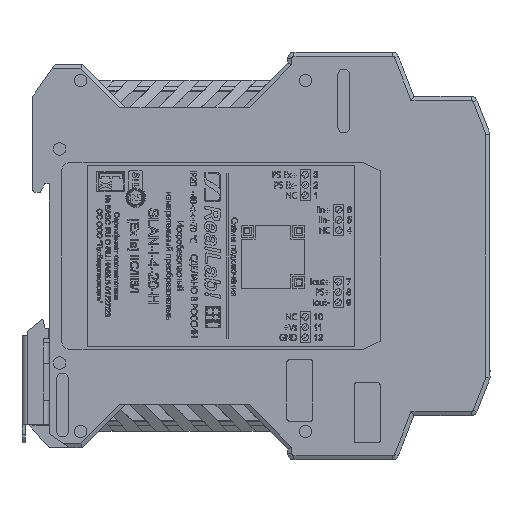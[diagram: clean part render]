
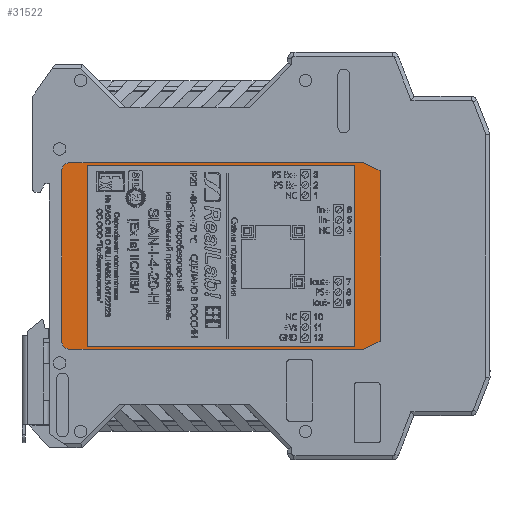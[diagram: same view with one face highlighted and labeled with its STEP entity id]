
A CAD part, front view. The second image highlights one B-rep face of the part: STEP entity #31522.
In plain terms, the highlighted planar face has unit normal (0, -1, 0).
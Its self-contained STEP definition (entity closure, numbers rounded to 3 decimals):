
#31522=ADVANCED_FACE('',(#106641,#106643),#106645,.T.);
#106641=FACE_BOUND('',#106642,.T.);
#106642=EDGE_LOOP('',(#173952,#173953,#173954,#173955,#173956,#173957,#173958,#173959));
#106643=FACE_BOUND('',#106644,.T.);
#106644=EDGE_LOOP('',(#173960,#173961,#173962,#173963));
#106645=PLANE('',#106646);
#106646=AXIS2_PLACEMENT_3D('',#106647,#106648,#106649);
#106647=CARTESIAN_POINT('',(105.362,0.2,-1.512));
#106648=DIRECTION('',(0.,-1.,0.));
#106649=DIRECTION('',(0.,0.,-1.));
#173952=ORIENTED_EDGE('',*,*,#227919,.T.);
#173953=ORIENTED_EDGE('',*,*,#227920,.T.);
#173954=ORIENTED_EDGE('',*,*,#227921,.T.);
#173955=ORIENTED_EDGE('',*,*,#227922,.T.);
#173956=ORIENTED_EDGE('',*,*,#227923,.T.);
#173957=ORIENTED_EDGE('',*,*,#227924,.F.);
#173958=ORIENTED_EDGE('',*,*,#227925,.T.);
#173959=ORIENTED_EDGE('',*,*,#227926,.F.);
#173960=ORIENTED_EDGE('',*,*,#221054,.T.);
#173961=ORIENTED_EDGE('',*,*,#221061,.T.);
#173962=ORIENTED_EDGE('',*,*,#221059,.T.);
#173963=ORIENTED_EDGE('',*,*,#221057,.T.);
#221054=EDGE_CURVE('',#251206,#251207,#251208,.T.);
#221057=EDGE_CURVE('',#251211,#251206,#251212,.T.);
#221059=EDGE_CURVE('',#251214,#251211,#251215,.T.);
#221061=EDGE_CURVE('',#251207,#251214,#251217,.T.);
#227919=EDGE_CURVE('',#261530,#261531,#261532,.T.);
#227920=EDGE_CURVE('',#261531,#261533,#261534,.T.);
#227921=EDGE_CURVE('',#261533,#261535,#261536,.T.);
#227922=EDGE_CURVE('',#261535,#261537,#261538,.T.);
#227923=EDGE_CURVE('',#261537,#261539,#261540,.T.);
#227924=EDGE_CURVE('',#261541,#261539,#261542,.T.);
#227925=EDGE_CURVE('',#261541,#261543,#261544,.T.);
#227926=EDGE_CURVE('',#261530,#261543,#261545,.T.);
#251206=VERTEX_POINT('',#304053);
#251207=VERTEX_POINT('',#304054);
#251208=LINE('',#304055,#304056);
#251211=VERTEX_POINT('',#304064);
#251212=LINE('',#304065,#304066);
#251214=VERTEX_POINT('',#304071);
#251215=LINE('',#304072,#304073);
#251217=LINE('',#304078,#304079);
#261530=VERTEX_POINT('',#330401);
#261531=VERTEX_POINT('',#330402);
#261532=LINE('',#330403,#330404);
#261533=VERTEX_POINT('',#330406);
#261534=LINE('',#330407,#330408);
#261535=VERTEX_POINT('',#330410);
#261536=LINE('',#330411,#330412);
#261537=VERTEX_POINT('',#330414);
#261538=LINE('',#330415,#330416);
#261539=VERTEX_POINT('',#330418);
#261540=LINE('',#330419,#330420);
#261541=VERTEX_POINT('',#330422);
#261542=CIRCLE('',#330423,2.);
#261543=VERTEX_POINT('',#330427);
#261544=LINE('',#330428,#330429);
#261545=CIRCLE('',#330431,2.);
#304053=CARTESIAN_POINT('',(75.662,0.2,20.488));
#304054=CARTESIAN_POINT('',(75.662,0.2,-23.512));
#304055=CARTESIAN_POINT('',(75.662,0.2,20.488));
#304056=VECTOR('',#304057,1.);
#304057=DIRECTION('',(0.,0.,-1.));
#304064=CARTESIAN_POINT('',(10.662,0.2,20.488));
#304065=CARTESIAN_POINT('',(10.662,0.2,20.488));
#304066=VECTOR('',#304067,1.);
#304067=DIRECTION('',(1.,0.,0.));
#304071=CARTESIAN_POINT('',(10.662,0.2,-23.512));
#304072=CARTESIAN_POINT('',(10.662,0.2,-23.512));
#304073=VECTOR('',#304074,1.);
#304074=DIRECTION('',(0.,0.,1.));
#304078=CARTESIAN_POINT('',(75.662,0.2,-23.512));
#304079=VECTOR('',#304080,1.);
#304080=DIRECTION('',(-1.,0.,0.));
#330401=CARTESIAN_POINT('',(6.512,0.2,-24.162));
#330402=CARTESIAN_POINT('',(77.812,0.2,-24.162));
#330403=CARTESIAN_POINT('',(6.512,0.2,-24.162));
#330404=VECTOR('',#330405,1.);
#330405=DIRECTION('',(1.,0.,0.));
#330406=CARTESIAN_POINT('',(81.812,0.2,-22.162));
#330407=CARTESIAN_POINT('',(77.812,0.2,-24.162));
#330408=VECTOR('',#330409,1.);
#330409=DIRECTION('',(0.894,0.,0.447));
#330410=CARTESIAN_POINT('',(81.812,0.2,19.138));
#330411=CARTESIAN_POINT('',(81.812,0.2,-22.162));
#330412=VECTOR('',#330413,1.);
#330413=DIRECTION('',(0.,0.,1.));
#330414=CARTESIAN_POINT('',(77.812,0.2,21.138));
#330415=CARTESIAN_POINT('',(81.812,0.2,19.138));
#330416=VECTOR('',#330417,1.);
#330417=DIRECTION('',(-0.894,0.,0.447));
#330418=CARTESIAN_POINT('',(6.512,0.2,21.138));
#330419=CARTESIAN_POINT('',(77.812,0.2,21.138));
#330420=VECTOR('',#330421,1.);
#330421=DIRECTION('',(-1.,0.,0.));
#330422=CARTESIAN_POINT('',(4.512,0.2,19.138));
#330423=AXIS2_PLACEMENT_3D('',#330424,#330425,#330426);
#330424=CARTESIAN_POINT('',(6.512,0.2,19.138));
#330425=DIRECTION('',(0.,1.,0.));
#330426=DIRECTION('',(-1.,0.,0.));
#330427=CARTESIAN_POINT('',(4.512,0.2,-22.162));
#330428=CARTESIAN_POINT('',(4.512,0.2,19.138));
#330429=VECTOR('',#330430,1.);
#330430=DIRECTION('',(0.,0.,-1.));
#330431=AXIS2_PLACEMENT_3D('',#330432,#330433,#330434);
#330432=CARTESIAN_POINT('',(6.512,0.2,-22.162));
#330433=DIRECTION('',(0.,1.,0.));
#330434=DIRECTION('',(0.,0.,-1.));
